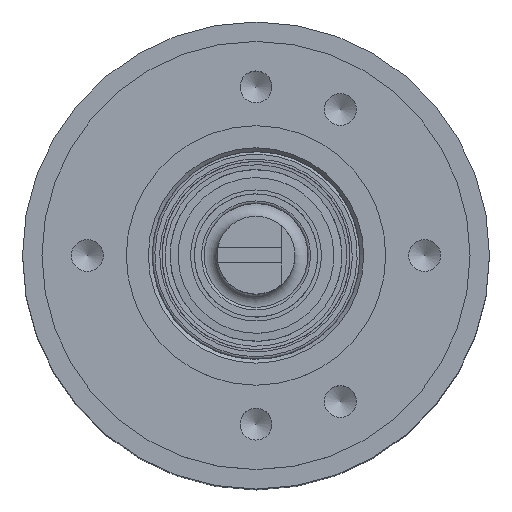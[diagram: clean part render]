
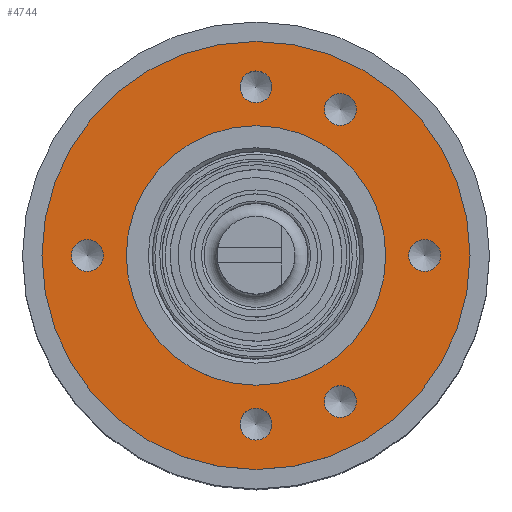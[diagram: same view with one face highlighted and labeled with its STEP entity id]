
A CAD part, top view. The second image highlights one B-rep face of the part: STEP entity #4744.
In plain terms, the highlighted planar face has unit normal (0, 0, 1).
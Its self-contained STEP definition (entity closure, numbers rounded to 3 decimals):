
#170 = ORIENTED_EDGE ( 'NONE', *, *, #2187, .F. ) ;
#185 = VERTEX_POINT ( 'NONE', #4531 ) ;
#293 = DIRECTION ( 'NONE',  ( -1., 0., 0. ) ) ;
#312 = AXIS2_PLACEMENT_3D ( 'NONE', #1337, #925, #5599 ) ;
#498 = ORIENTED_EDGE ( 'NONE', *, *, #1021, .T. ) ;
#606 = EDGE_LOOP ( 'NONE', ( #1701 ) ) ;
#607 = DIRECTION ( 'NONE',  ( 0., 0., -1. ) ) ;
#748 = CARTESIAN_POINT ( 'NONE',  ( -31.569, -42.239, -6.945 ) ) ;
#773 = ORIENTED_EDGE ( 'NONE', *, *, #6163, .T. ) ;
#819 = CARTESIAN_POINT ( 'NONE',  ( -23.839, -17.981, -6.945 ) ) ;
#925 = DIRECTION ( 'NONE',  ( 0., 0., -1. ) ) ;
#929 = VERTEX_POINT ( 'NONE', #6718 ) ;
#1021 = EDGE_CURVE ( 'NONE', #6131, #6131, #1228, .T. ) ;
#1045 = CARTESIAN_POINT ( 'NONE',  ( -17.339, -29.239, -6.945 ) ) ;
#1056 = CIRCLE ( 'NONE', #1953, 1.23 ) ;
#1146 = DIRECTION ( 'NONE',  ( -1., 0., 0. ) ) ;
#1225 = AXIS2_PLACEMENT_3D ( 'NONE', #2189, #2080, #2671 ) ;
#1228 = CIRCLE ( 'NONE', #3917, 1.23 ) ;
#1260 = CARTESIAN_POINT ( 'NONE',  ( -30.339, -16.239, -6.945 ) ) ;
#1337 = CARTESIAN_POINT ( 'NONE',  ( -30.339, -42.239, -6.945 ) ) ;
#1342 = EDGE_CURVE ( 'NONE', #3906, #3906, #1682, .T. ) ;
#1364 = EDGE_LOOP ( 'NONE', ( #773 ) ) ;
#1433 = CIRCLE ( 'NONE', #312, 1.229 ) ;
#1501 = CIRCLE ( 'NONE', #6411, 16.5 ) ;
#1507 = ORIENTED_EDGE ( 'NONE', *, *, #3284, .T. ) ;
#1530 = CARTESIAN_POINT ( 'NONE',  ( -25.069, -40.498, -6.945 ) ) ;
#1546 = FACE_BOUND ( 'NONE', #6227, .T. ) ;
#1682 = CIRCLE ( 'NONE', #4580, 10. ) ;
#1701 = ORIENTED_EDGE ( 'NONE', *, *, #2144, .T. ) ;
#1733 = CIRCLE ( 'NONE', #6055, 1.23 ) ;
#1841 = DIRECTION ( 'NONE',  ( 0., 0., -1. ) ) ;
#1846 = EDGE_CURVE ( 'NONE', #2100, #2100, #1733, .T. ) ;
#1934 = EDGE_LOOP ( 'NONE', ( #498 ) ) ;
#1953 = AXIS2_PLACEMENT_3D ( 'NONE', #819, #5087, #293 ) ;
#2064 = CARTESIAN_POINT ( 'NONE',  ( -20.339, -29.239, -6.945 ) ) ;
#2080 = DIRECTION ( 'NONE',  ( 0., 0., -1. ) ) ;
#2100 = VERTEX_POINT ( 'NONE', #1530 ) ;
#2144 = EDGE_CURVE ( 'NONE', #3178, #3178, #1056, .T. ) ;
#2187 = EDGE_CURVE ( 'NONE', #5271, #5271, #1501, .T. ) ;
#2189 = CARTESIAN_POINT ( 'NONE',  ( -30.339, -29.239, -6.945 ) ) ;
#2605 = FACE_BOUND ( 'NONE', #606, .T. ) ;
#2671 = DIRECTION ( 'NONE',  ( 1., 0., 0. ) ) ;
#2740 = ORIENTED_EDGE ( 'NONE', *, *, #3073, .T. ) ;
#2831 = AXIS2_PLACEMENT_3D ( 'NONE', #4490, #3465, #6008 ) ;
#3073 = EDGE_CURVE ( 'NONE', #185, #185, #3668, .T. ) ;
#3178 = VERTEX_POINT ( 'NONE', #6547 ) ;
#3250 = DIRECTION ( 'NONE',  ( 0., 0., -1. ) ) ;
#3278 = CIRCLE ( 'NONE', #2831, 1.23 ) ;
#3284 = EDGE_CURVE ( 'NONE', #6644, #6644, #1433, .T. ) ;
#3305 = EDGE_LOOP ( 'NONE', ( #170 ) ) ;
#3465 = DIRECTION ( 'NONE',  ( 0., 0., -1. ) ) ;
#3647 = FACE_BOUND ( 'NONE', #5039, .T. ) ;
#3668 = CIRCLE ( 'NONE', #4350, 1.229 ) ;
#3679 = PLANE ( 'NONE',  #1225 ) ;
#3755 = EDGE_LOOP ( 'NONE', ( #2740 ) ) ;
#3877 = DIRECTION ( 'NONE',  ( 0., 0., 1. ) ) ;
#3906 = VERTEX_POINT ( 'NONE', #2064 ) ;
#3917 = AXIS2_PLACEMENT_3D ( 'NONE', #1045, #3250, #1146 ) ;
#3978 = DIRECTION ( 'NONE',  ( -1., 0., 0. ) ) ;
#4089 = ORIENTED_EDGE ( 'NONE', *, *, #1342, .F. ) ;
#4350 = AXIS2_PLACEMENT_3D ( 'NONE', #1260, #607, #6434 ) ;
#4490 = CARTESIAN_POINT ( 'NONE',  ( -43.339, -29.239, -6.945 ) ) ;
#4531 = CARTESIAN_POINT ( 'NONE',  ( -31.569, -16.239, -6.945 ) ) ;
#4580 = AXIS2_PLACEMENT_3D ( 'NONE', #4640, #3877, #4599 ) ;
#4599 = DIRECTION ( 'NONE',  ( 1., 0., 0. ) ) ;
#4640 = CARTESIAN_POINT ( 'NONE',  ( -30.339, -29.239, -6.945 ) ) ;
#4699 = FACE_OUTER_BOUND ( 'NONE', #3305, .T. ) ;
#4744 = ADVANCED_FACE ( 'NONE', ( #4699, #2605, #5317, #6325, #3647, #6845, #1546, #6813 ), #3679, .F. ) ;
#4839 = ORIENTED_EDGE ( 'NONE', *, *, #1846, .T. ) ;
#5039 = EDGE_LOOP ( 'NONE', ( #1507 ) ) ;
#5087 = DIRECTION ( 'NONE',  ( 0., 0., -1. ) ) ;
#5225 = CARTESIAN_POINT ( 'NONE',  ( -30.339, -29.239, -6.945 ) ) ;
#5271 = VERTEX_POINT ( 'NONE', #5303 ) ;
#5303 = CARTESIAN_POINT ( 'NONE',  ( -13.839, -29.239, -6.945 ) ) ;
#5317 = FACE_BOUND ( 'NONE', #1364, .T. ) ;
#5381 = CARTESIAN_POINT ( 'NONE',  ( -23.839, -40.498, -6.945 ) ) ;
#5599 = DIRECTION ( 'NONE',  ( -1., 0., 0. ) ) ;
#5754 = CARTESIAN_POINT ( 'NONE',  ( -18.569, -29.239, -6.945 ) ) ;
#6008 = DIRECTION ( 'NONE',  ( -1., 0., 0. ) ) ;
#6055 = AXIS2_PLACEMENT_3D ( 'NONE', #5381, #1841, #3978 ) ;
#6131 = VERTEX_POINT ( 'NONE', #5754 ) ;
#6163 = EDGE_CURVE ( 'NONE', #929, #929, #3278, .T. ) ;
#6183 = EDGE_LOOP ( 'NONE', ( #4089 ) ) ;
#6227 = EDGE_LOOP ( 'NONE', ( #4839 ) ) ;
#6325 = FACE_BOUND ( 'NONE', #1934, .T. ) ;
#6339 = DIRECTION ( 'NONE',  ( 1., 0., 0. ) ) ;
#6411 = AXIS2_PLACEMENT_3D ( 'NONE', #5225, #6825, #6339 ) ;
#6434 = DIRECTION ( 'NONE',  ( -1., 0., 0. ) ) ;
#6547 = CARTESIAN_POINT ( 'NONE',  ( -25.069, -17.981, -6.945 ) ) ;
#6644 = VERTEX_POINT ( 'NONE', #748 ) ;
#6718 = CARTESIAN_POINT ( 'NONE',  ( -44.569, -29.239, -6.945 ) ) ;
#6813 = FACE_BOUND ( 'NONE', #6183, .T. ) ;
#6825 = DIRECTION ( 'NONE',  ( 0., 0., -1. ) ) ;
#6845 = FACE_BOUND ( 'NONE', #3755, .T. ) ;
